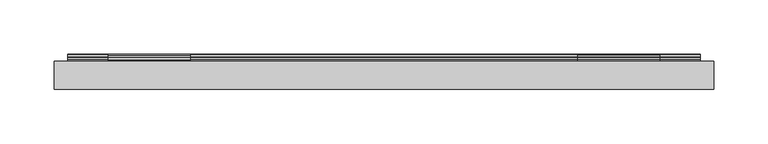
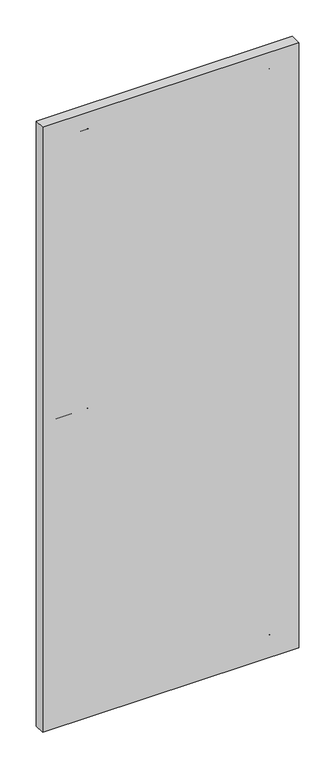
"""IFC4 building model written with IfcOpenShell, lengths in millimetres: furniture geometry, Geiger_GeigerOneCasegoods_WallTileTopTileorWallMountedFabric : Fabric 24Wx 1.25Dx 60H 2 yds."""

from ifc_helpers import new_model, si_unit, point, frame, frame_2d, origin, origin_with_axes, place, context, project, spatial, polyline, circle_curve, trimmed, segment, composite_curve, outline, extrude, source, transform, mapped, element, save


def furniture_9f6ea187(model_context):
    return source(origin(), model_context, "Body", "SweptSolid", [
        extrude(outline(polyline([(609.6, 0.0), (609.6, -26.0), (0.0, -26.0), (0.0, 0.0), (609.6, 0.0)])), origin_with_axes(), (0.0, 0.0, 1.0), 1523.0),
        extrude(outline(composite_curve([segment(polyline([(2.8948, 1463.7418), (2.8948, 1456.8076), (3.7076, 1456.0202), (5.6126, 1456.0202), (6.4, 1455.2074), (6.4, 1423.5082), (5.1046, 1423.5082), (3.5044, 1425.1084), (3.5044, 1449.6956), (2.6916, 1450.5084), (0.812, 1450.5084), (-0.0008, 1451.2958), (-0.0008, 1464.707)]), True, "CONTINUOUS"), segment(trimmed(circle_curve(frame_2d((0.8026421, 1464.6976421)), 0.8034966), [point((-0.0008, 1464.707))], [point((1.3708, 1465.2658))], False, "CARTESIAN"), True, "CONTINUOUS"), segment(polyline([(1.3708, 1465.2658), (2.8948, 1463.7418)]), True, "CONTINUOUS")], self_intersect=False)), frame((12.5, 0.0, 0.0), z_axis=(1.0, 0.0, 0.0), x_axis=(0.0, 1.0, 0.0)), (0.0, 0.0, 1.0), 584.6),
        extrude(outline(composite_curve([segment(polyline([(3.5052, 1457.7864), (3.5052, 1464.7206), (2.6924, 1465.508), (0.7874, 1465.508), (0.0, 1466.3208), (0.0, 1498.02), (1.2954, 1498.02), (2.8956, 1496.4198), (2.8956, 1471.8326), (3.7084, 1471.0198), (5.588, 1471.0198), (6.4008, 1470.2324), (6.4008, 1456.8212)]), True, "CONTINUOUS"), segment(trimmed(circle_curve(frame_2d((5.5973579, 1456.8305579)), 0.8034966), [point((6.4008, 1456.8212))], [point((5.0292, 1456.2624))], False, "CARTESIAN"), True, "CONTINUOUS"), segment(polyline([(5.0292, 1456.2624), (3.5052, 1457.7864)]), True, "CONTINUOUS")], self_intersect=False)), frame((50.0, 0.0, 0.0), z_axis=(1.0, 0.0, 0.0), x_axis=(0.0, 1.0, 0.0)), (0.0, 0.0, 1.0), 76.0),
        extrude(outline(composite_curve([segment(polyline([(2.8956, 1471.8326), (3.7084, 1471.0198), (5.588, 1471.0198), (6.4008, 1470.2324), (6.4008, 1456.8212)]), True, "CONTINUOUS"), segment(trimmed(circle_curve(frame_2d((5.5973579, 1456.8305579)), 0.8034966), [point((6.4008, 1456.8212))], [point((5.0292, 1456.2624))], False, "CARTESIAN"), True, "CONTINUOUS"), segment(polyline([(5.0292, 1456.2624), (3.5052, 1457.7864), (3.5052, 1464.7206), (2.6924, 1465.508), (0.7874, 1465.508), (0.0, 1466.3208), (0.0, 1498.02), (1.2954, 1498.02), (2.8956, 1496.4198), (2.8956, 1471.8326)]), True, "CONTINUOUS")], self_intersect=False)), frame((483.6, 0.0, 0.0), z_axis=(1.0, 0.0, 0.0), x_axis=(0.0, 1.0, 0.0)), (0.0, 0.0, 1.0), 76.0),
        extrude(outline(composite_curve([segment(polyline([(2.8948, 760.2196), (2.8948, 753.2854), (3.7076, 752.498), (5.6126, 752.498), (6.4, 751.6852), (6.4, 719.986), (5.1046, 719.986), (3.5044, 721.5862), (3.5044, 746.1734), (2.6916, 746.9862), (0.812, 746.9862), (-0.0008, 747.7736), (-0.0008, 761.1848)]), True, "CONTINUOUS"), segment(trimmed(circle_curve(frame_2d((0.8026421, 761.1754421)), 0.8034966), [point((-0.0008, 761.1848))], [point((1.3708, 761.7436))], False, "CARTESIAN"), True, "CONTINUOUS"), segment(polyline([(1.3708, 761.7436), (2.8948, 760.2196)]), True, "CONTINUOUS")], self_intersect=False)), frame((12.5, 0.0, 0.0), z_axis=(1.0, 0.0, 0.0), x_axis=(0.0, 1.0, 0.0)), (0.0, 0.0, 1.0), 584.6),
        extrude(outline(composite_curve([segment(polyline([(2.8956, 768.3246), (3.7084, 767.5118), (5.588, 767.5118), (6.4008, 766.7244), (6.4008, 753.3132)]), True, "CONTINUOUS"), segment(trimmed(circle_curve(frame_2d((5.5973579, 753.3225579)), 0.8034966), [point((6.4008, 753.3132))], [point((5.0292, 752.7544))], False, "CARTESIAN"), True, "CONTINUOUS"), segment(polyline([(5.0292, 752.7544), (3.5052, 754.2784), (3.5052, 761.2126), (2.6924, 762.0), (0.7874, 762.0), (0.0, 762.8128), (0.0, 794.512), (1.2954, 794.512), (2.8956, 792.9118), (2.8956, 768.3246)]), True, "CONTINUOUS")], self_intersect=False)), frame((483.6, 0.0, 0.0), z_axis=(1.0, 0.0, 0.0), x_axis=(0.0, 1.0, 0.0)), (0.0, 0.0, 1.0), 76.0),
        extrude(outline(composite_curve([segment(polyline([(3.5052, 754.2784), (3.5052, 761.2126), (2.6924, 762.0), (0.7874, 762.0), (0.0, 762.8128), (0.0, 794.512), (1.2954, 794.512), (2.8956, 792.9118), (2.8956, 768.3246), (3.7084, 767.5118), (5.588, 767.5118), (6.4008, 766.7244), (6.4008, 753.3132)]), True, "CONTINUOUS"), segment(trimmed(circle_curve(frame_2d((5.5973579, 753.3225579)), 0.8034966), [point((6.4008, 753.3132))], [point((5.0292, 752.7544))], False, "CARTESIAN"), True, "CONTINUOUS"), segment(polyline([(5.0292, 752.7544), (3.5052, 754.2784)]), True, "CONTINUOUS")], self_intersect=False)), frame((50.0, 0.0, 0.0), z_axis=(1.0, 0.0, 0.0), x_axis=(0.0, 1.0, 0.0)), (0.0, 0.0, 1.0), 76.0),
        extrude(outline(composite_curve([segment(polyline([(2.8956, 46.3366), (3.7084, 45.5238), (5.588, 45.5238), (6.4008, 44.7364), (6.4008, 31.3252)]), True, "CONTINUOUS"), segment(trimmed(circle_curve(frame_2d((5.5973579, 31.3345579)), 0.8034966), [point((6.4008, 31.3252))], [point((5.0292, 30.7664))], False, "CARTESIAN"), True, "CONTINUOUS"), segment(polyline([(5.0292, 30.7664), (3.5052, 32.2904), (3.5052, 39.2246), (2.6924, 40.012), (0.7874, 40.012), (0.0, 40.8248), (0.0, 72.524), (1.2954, 72.524), (2.8956, 70.9238), (2.8956, 46.3366)]), True, "CONTINUOUS")], self_intersect=False)), frame((483.6, 0.0, 0.0), z_axis=(1.0, 0.0, 0.0), x_axis=(0.0, 1.0, 0.0)), (0.0, 0.0, 1.0), 76.0),
        extrude(outline(composite_curve([segment(polyline([(3.5052, 32.2904), (3.5052, 39.2246), (2.6924, 40.012), (0.7874, 40.012), (0.0, 40.8248), (0.0, 72.524), (1.2954, 72.524), (2.8956, 70.9238), (2.8956, 46.3366), (3.7084, 45.5238), (5.588, 45.5238), (6.4008, 44.7364), (6.4008, 31.3252)]), True, "CONTINUOUS"), segment(trimmed(circle_curve(frame_2d((5.5973579, 31.3345579)), 0.8034966), [point((6.4008, 31.3252))], [point((5.0292, 30.7664))], False, "CARTESIAN"), True, "CONTINUOUS"), segment(polyline([(5.0292, 30.7664), (3.5052, 32.2904)]), True, "CONTINUOUS")], self_intersect=False)), frame((50.0, 0.0, 0.0), z_axis=(1.0, 0.0, 0.0), x_axis=(0.0, 1.0, 0.0)), (0.0, 0.0, 1.0), 76.0),
        extrude(outline(composite_curve([segment(polyline([(2.8948, 38.2316), (2.8948, 31.2974), (3.7076, 30.51), (5.6126, 30.51), (6.4, 29.6972), (6.4, -2.002), (5.1046, -2.002), (3.5044, -0.4018), (3.5044, 24.1854), (2.6916, 24.9982), (0.812, 24.9982), (-0.0008, 25.7856), (-0.0008, 39.1968)]), True, "CONTINUOUS"), segment(trimmed(circle_curve(frame_2d((0.8026421, 39.1874421)), 0.8034966), [point((-0.0008, 39.1968))], [point((1.3708, 39.7556))], False, "CARTESIAN"), True, "CONTINUOUS"), segment(polyline([(1.3708, 39.7556), (2.8948, 38.2316)]), True, "CONTINUOUS")], self_intersect=False)), frame((12.5, 0.0, 0.0), z_axis=(1.0, 0.0, 0.0), x_axis=(0.0, 1.0, 0.0)), (0.0, 0.0, 1.0), 584.6),
    ])


if __name__ == "__main__":
    model = new_model("IFC4")
    model_context = context("Model", 3, world=origin())
    ifc_project = project(units=[si_unit("LENGTHUNIT", "METRE", prefix="MILLI")], contexts=[model_context])
    site = spatial("IfcSite", under=ifc_project)
    building = spatial("IfcBuilding", under=site)
    placement = place(None, origin())
    furniture_shape = furniture_9f6ea187(model_context)
    element("IfcFurniture", 1, ObjectType="Geiger_GeigerOneCasegoods_WallTileTopTileorWallMountedFabric : Fabric 24Wx 1.25Dx 60H 2 yds", at=placement, inside=building, context=model_context, shape_type="MappedRepresentation", body=[
        mapped(furniture_shape, transform((0.0, 0.0, 0.0), x_axis=(1.0, 0.0, 0.0), y_axis=(0.0, 1.0, 0.0), z_axis=(0.0, 0.0, 1.0))),
    ])
    save(model, "model.ifc")
